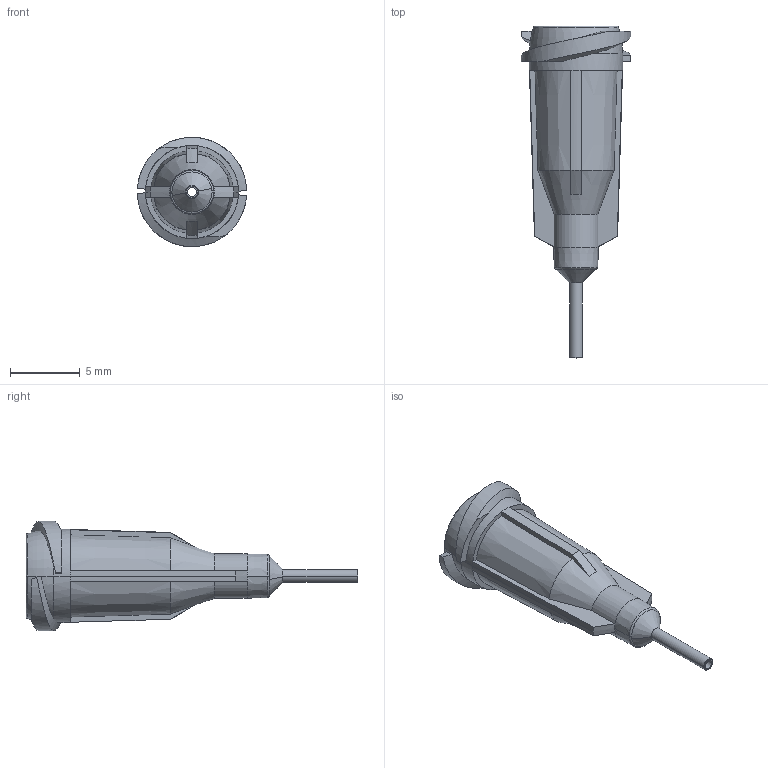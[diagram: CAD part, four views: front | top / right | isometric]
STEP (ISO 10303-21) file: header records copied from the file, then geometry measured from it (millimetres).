
FILE_DESCRIPTION (( 'STEP AP214' ), '1' );
FILE_NAME ('NORDSONEFD-7018162 TIP 20GA GP 023 X 25 PK.STEP', '2019-07-10T14:39:11', ( '' ), ( '' ), 'SwSTEP 2.0', 'SolidWorks 2019', '' );
FILE_SCHEMA (( 'AUTOMOTIVE_DESIGN' ));
Length unit declared in the file: inch
Products named in the file (1): NORDSONEFD-7018162 TIP 20GA GP 023 X 25 PK
Bounding box: 7.82 x 23.72 x 7.82 mm (x, y, z)
Volume: 265.1 mm3; surface area: 573.3 mm2
Topology: 1 solids, 1 shells, 98 faces, 232 edges, 140 vertices
Faces by surface type: plane 26, torus 22, cone 22, cylinder 16, bspline 12
Entity records: 3360 total; most frequent: CARTESIAN_POINT 1005, DIRECTION 468, ORIENTED_EDGE 464, EDGE_CURVE 232, AXIS2_PLACEMENT_3D 205, VERTEX_POINT 140, CIRCLE 118, EDGE_LOOP 104
